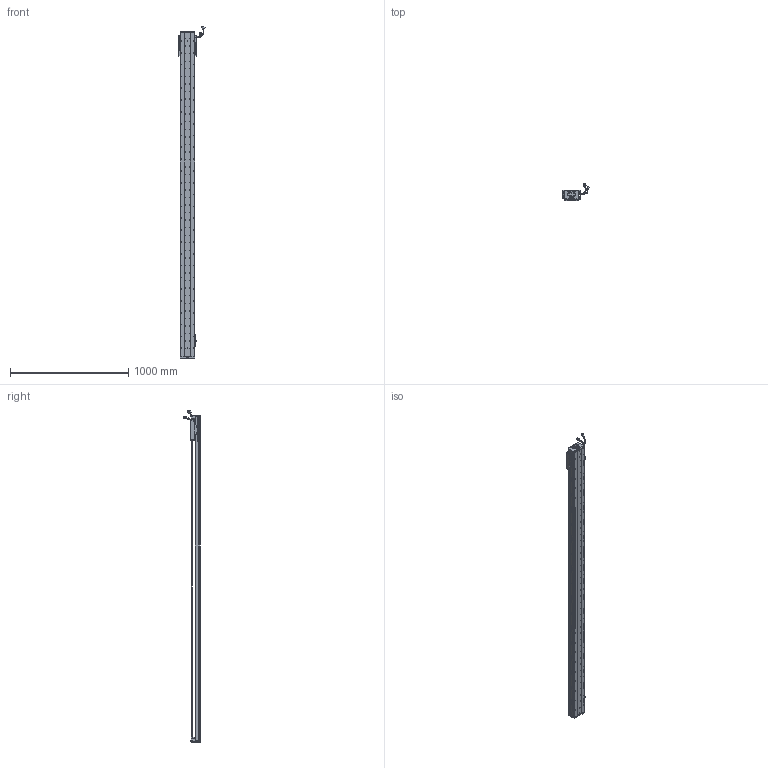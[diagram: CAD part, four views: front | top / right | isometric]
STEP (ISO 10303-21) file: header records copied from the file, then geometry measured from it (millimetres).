
FILE_DESCRIPTION (( 'STEP AP203' ), '1' );
FILE_NAME ('Z2-RY120D-1-L500-B-K.SLDASM_2500.step', '2021-05-17T05:39:08', ( '盈信电脑' ), ( '东莞市道滘镇水果街19号' ), 'SwSTEP 2.0', 'SolidWorks 2016', '' );
FILE_SCHEMA (( 'CONFIG_CONTROL_DESIGN' ));
Length unit declared in the file: millimetre
Products named in the file (37): SHIELDPLATE; SCREW-M1.6-1; 覜茼ん672; SCALE; 120-Z-臏賑輸盄裔(21遴); RY100FB-遵嫖萇覜茼え; Z2-RY120D-1-L500-B-K.SLDASM_2500; LABEL; SCALE-Part-1; SCREW-M1.6; SEAL-Part-1; SCREW-M1.6-2; Z-RY120D詩湍奻揤裔; HARNESS; SCREW-M1.7; Z2-RY120-L500詩湍100mm遵_2500; SCALE-Part-2; Z-RY120D詩湍狟揤裔; COVER; SCREW-M1.7-1; HARNESS-Part-2; SEAL; Z2-RY120-500-倰第菁釱_2500; 榋妏寠巭燃_暯_M2_2; SCREW-M1.6-3; 080黍杅芛假蚾釱21遴; PBU_SHEET; COVER-Part-1; Z2-RY120铝滑块（21款）; PSLH080_PSLF2; HOLDER0; LABEL-Part-1; HARNESS-Part-1; 140蚥薯蝶輸; 672嫖萇羲壽假蚾釱; 140雄赽晤鎢ん堤盄; Z-120詩湍傷裔啣
Assembly tree (43 placements, depth 4):
  Z2-RY120D-1-L500-B-K.SLDASM_2500
    Z2-RY120-500-倰第菁釱_2500
    覜茼ん672  x3
    672嫖萇羲壽假蚾釱  x2
    Z2-RY120铝滑块（21款）
    PSLH080_PSLF2
      SCALE
        SCALE-Part-1
        SCALE-Part-2
      HARNESS
        HARNESS-Part-1
        HARNESS-Part-2
      LABEL
        LABEL-Part-1
      COVER
        COVER-Part-1
      SEAL
        SEAL-Part-1
      榋妏寠巭燃_暯_M2_2
      SHIELDPLATE
      SCREW-M1.7
      SCREW-M1.7-1
      PBU_SHEET
      SCREW-M1.6
      SCREW-M1.6-1
      SCREW-M1.6-2
      SCREW-M1.6-3
      HOLDER0
    080黍杅芛假蚾釱21遴
    120-Z-臏賑輸盄裔(21遴)
    140雄赽晤鎢ん堤盄
    140蚥薯蝶輸  x2
    RY100FB-遵嫖萇覜茼え
    Z-120詩湍傷裔啣  x2
    Z-RY120D詩湍奻揤裔  x2
    Z-RY120D詩湍狟揤裔  x2
    Z2-RY120-L500詩湍100mm遵_2500
Bounding box: 222.83 x 140.94 x 2808.99 mm (x, y, z)
Volume: 6390970.8 mm3; surface area: 2266172.3 mm2
Topology: 38 solids, 38 shells, 3733 faces, 10664 edges, 6730 vertices
Faces by surface type: cylinder 1970, plane 1255, cone 386, torus 69, bspline 53
Entity records: 126023 total; most frequent: CARTESIAN_POINT 38840, ORIENTED_EDGE 18080, DIRECTION 16512, EDGE_CURVE 9040, AXIS2_PLACEMENT_3D 6108, VERTEX_POINT 5850, VECTOR 4296, LINE 4296
